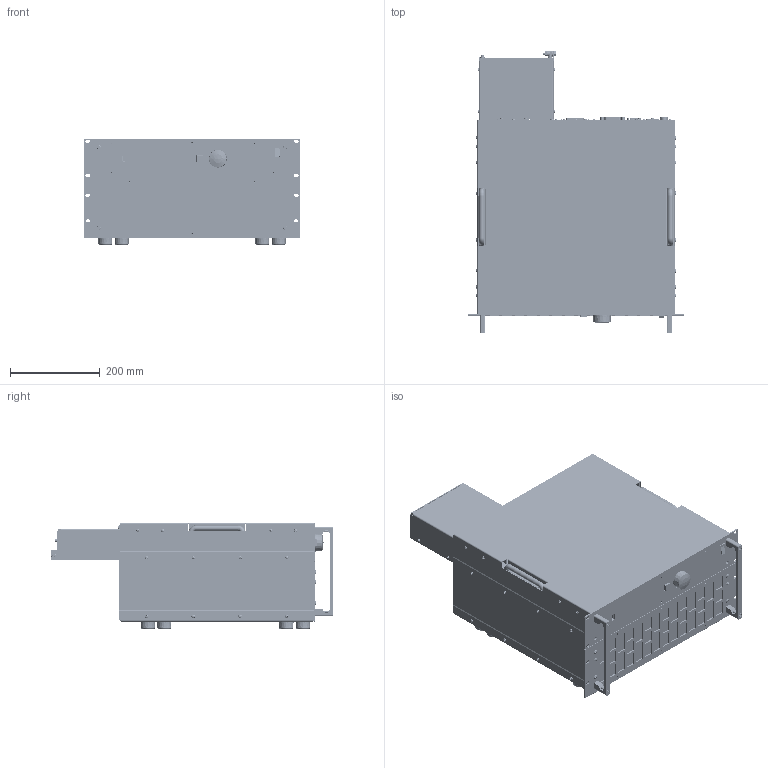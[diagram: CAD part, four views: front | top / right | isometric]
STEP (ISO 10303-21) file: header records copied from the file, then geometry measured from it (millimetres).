
FILE_DESCRIPTION(('STEP AP214'),'1');
FILE_NAME('QL_M13_5HE_FKS25_10_SM10_3D_01.step','2021-11-29T09:53:01',(' '),(' '),'Spatial InterOp 3D',' ',' ');
FILE_SCHEMA(('AUTOMOTIVE_DESIGN { 1 0 10303 214 1 1 1 1 }'));
Length unit declared in the file: millimetre
Products named in the file (44): 2121_Steuerteil_modular_Seitenteil_links_3D_02; 2122_Steuerteil_modular_Seitenteil_rechts_3D_02; A$C5EF2ED09; 3xM2.5_5x5x12; AutoCreatedBlock_3209; A$C6092449D; Frontplatte_5HE_Steuerteil_mit_Einbauten_3D; A$C60925E47; A$C60A76697; BG441_mit_MT1955_3D_01; *U258; AutoCreatedBlock_3221; 2257_QL_IO Panel Standard_3D_01; 2084_IO-Port Abdeckung_3D_01; DIN 7985-A; DIN 933xM10 X 1.5x35; DIN 125-AxM10x0; DIN 127-BxM10; DIN 980xM10 X 1.0x0; Eingansschienen_CU25X10_3D; DIN 7985-AxM4 X 0.7x5; SAB_QL-5; *U285; *U286; *U287; *U288; *U289; *U290; *U291; *U292; AutoCreatedBlock_3245; 3HE_Leistungsteil_mit_Gummifüssen_3D_01; *U297; *U298; *U299; AutoCreatedBlock_3263; 2246_QL Rückwand Steuerteil 5HE_mit_Einbauten_3D_01; *U305; *U306; *U307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
Assembly tree (143 placements, depth 3):
  (unnamed)
    2121_Steuerteil_modular_Seitenteil_links_3D_02
    2122_Steuerteil_modular_Seitenteil_rechts_3D_02
    A$C5EF2ED09
      3xM2.5_5x5x12  x2
      AutoCreatedBlock_3209
    A$C6092449D
    Frontplatte_5HE_Steuerteil_mit_Einbauten_3D
    A$C60925E47
    A$C60A76697
    BG441_mit_MT1955_3D_01
      *U258  x2
      AutoCreatedBlock_3221
    2257_QL_IO Panel Standard_3D_01
    2084_IO-Port Abdeckung_3D_01  x2
    DIN 7985-A  x17
    DIN 7985-A  x9
    DIN 933xM10 X 1.5x35  x2
    DIN 125-AxM10x0  x4
    DIN 127-BxM10  x2
    DIN 980xM10 X 1.0x0  x2
    Eingansschienen_CU25X10_3D
    DIN 7985-AxM4 X 0.7x5  x26
    SAB_QL-5
      *U285
      *U286  x2
      *U287  x3
      *U288  x2
      *U289  x8
      *U290  x4
      *U291  x2
      *U292  x2
      AutoCreatedBlock_3245
    3HE_Leistungsteil_mit_Gummifüssen_3D_01
      *U297  x14
      *U298  x6
      *U299  x6
      AutoCreatedBlock_3263
    2246_QL Rückwand Steuerteil 5HE_mit_Einbauten_3D_01
      *U305
      *U306  x2
      *U307  x3
      AutoCreatedBlock_3271
    AutoCreatedBlock_3197
Bounding box: 482.6 x 630.75 x 237.87 mm (x, y, z)
Volume: 11360046.6 mm3; surface area: 3323666.7 mm2
Topology: 387 solids, 728 shells, 25754 faces, 64078 edges, 40094 vertices
Faces by surface type: plane 10594, cone 10359, cylinder 3891, torus 389, bspline 277, sphere 228, extrusion 16
Entity records: 811002 total; most frequent: CARTESIAN_POINT 151114, DIRECTION 106649, ORIENTED_EDGE 99034, EDGE_CURVE 50652, AXIS2_PLACEMENT_3D 37070, VECTOR 32509, LINE 32493, VERTEX_POINT 31836
